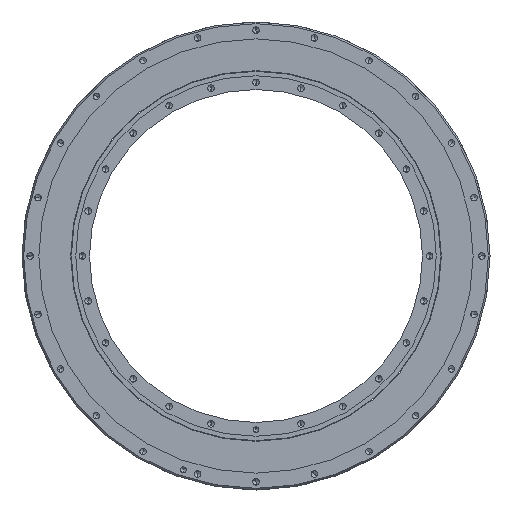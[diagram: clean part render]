
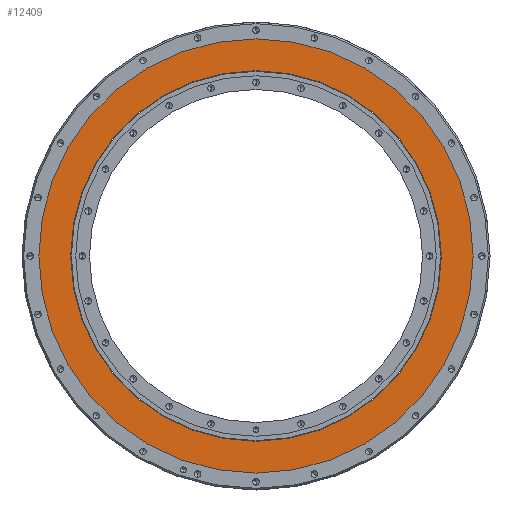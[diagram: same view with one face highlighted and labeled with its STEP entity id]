
A CAD part, front view. The second image highlights one B-rep face of the part: STEP entity #12409.
In plain terms, the highlighted planar face has unit normal (0, -1, 0).
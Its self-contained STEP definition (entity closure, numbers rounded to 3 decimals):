
#320 = EDGE_CURVE ( 'NONE', #7526, #12215, #1345, .T. ) ;
#656 = CIRCLE ( 'NONE', #4559, 225. ) ;
#831 = CARTESIAN_POINT ( 'NONE',  ( 0., 1., 0. ) ) ;
#1040 = AXIS2_PLACEMENT_3D ( 'NONE', #831, #10328, #5624 ) ;
#1111 = EDGE_LOOP ( 'NONE', ( #11374, #7624 ) ) ;
#1242 = CARTESIAN_POINT ( 'NONE',  ( 0., 1., -225. ) ) ;
#1345 = CIRCLE ( 'NONE', #1556, 192. ) ;
#1358 = FACE_OUTER_BOUND ( 'NONE', #9130, .T. ) ;
#1556 = AXIS2_PLACEMENT_3D ( 'NONE', #10415, #14045, #3453 ) ;
#1791 = CARTESIAN_POINT ( 'NONE',  ( 0., 1., 225. ) ) ;
#3453 = DIRECTION ( 'NONE',  ( 0., 0., -1. ) ) ;
#3557 = AXIS2_PLACEMENT_3D ( 'NONE', #10587, #4541, #11770 ) ;
#3677 = DIRECTION ( 'NONE',  ( 0., -1., 0. ) ) ;
#3788 = CARTESIAN_POINT ( 'NONE',  ( 0., 1., -192. ) ) ;
#4541 = DIRECTION ( 'NONE',  ( 0., -1., 0. ) ) ;
#4559 = AXIS2_PLACEMENT_3D ( 'NONE', #14155, #3677, #4790 ) ;
#4790 = DIRECTION ( 'NONE',  ( 0., 0., -1. ) ) ;
#5530 = CIRCLE ( 'NONE', #6269, 225. ) ;
#5624 = DIRECTION ( 'NONE',  ( 0., 0., -1. ) ) ;
#5906 = EDGE_CURVE ( 'NONE', #10224, #10407, #5530, .T. ) ;
#6269 = AXIS2_PLACEMENT_3D ( 'NONE', #9313, #8058, #9367 ) ;
#7526 = VERTEX_POINT ( 'NONE', #3788 ) ;
#7624 = ORIENTED_EDGE ( 'NONE', *, *, #13400, .F. ) ;
#8058 = DIRECTION ( 'NONE',  ( 0., -1., 0. ) ) ;
#8426 = FACE_BOUND ( 'NONE', #1111, .T. ) ;
#9130 = EDGE_LOOP ( 'NONE', ( #13413, #11807 ) ) ;
#9313 = CARTESIAN_POINT ( 'NONE',  ( 0., 1., 0. ) ) ;
#9367 = DIRECTION ( 'NONE',  ( 0., 0., -1. ) ) ;
#10019 = CARTESIAN_POINT ( 'NONE',  ( 0., 1., 192. ) ) ;
#10224 = VERTEX_POINT ( 'NONE', #1791 ) ;
#10328 = DIRECTION ( 'NONE',  ( 0., -1., 0. ) ) ;
#10407 = VERTEX_POINT ( 'NONE', #1242 ) ;
#10415 = CARTESIAN_POINT ( 'NONE',  ( 0., 1., 0. ) ) ;
#10587 = CARTESIAN_POINT ( 'NONE',  ( 192., 1., 0. ) ) ;
#11374 = ORIENTED_EDGE ( 'NONE', *, *, #320, .F. ) ;
#11770 = DIRECTION ( 'NONE',  ( 0., 0., -1. ) ) ;
#11807 = ORIENTED_EDGE ( 'NONE', *, *, #5906, .T. ) ;
#12215 = VERTEX_POINT ( 'NONE', #10019 ) ;
#12409 = ADVANCED_FACE ( 'NONE', ( #1358, #8426 ), #15251, .T. ) ;
#13400 = EDGE_CURVE ( 'NONE', #12215, #7526, #14538, .T. ) ;
#13413 = ORIENTED_EDGE ( 'NONE', *, *, #15279, .T. ) ;
#14045 = DIRECTION ( 'NONE',  ( 0., -1., 0. ) ) ;
#14155 = CARTESIAN_POINT ( 'NONE',  ( 0., 1., 0. ) ) ;
#14538 = CIRCLE ( 'NONE', #1040, 192. ) ;
#15251 = PLANE ( 'NONE',  #3557 ) ;
#15279 = EDGE_CURVE ( 'NONE', #10407, #10224, #656, .T. ) ;
